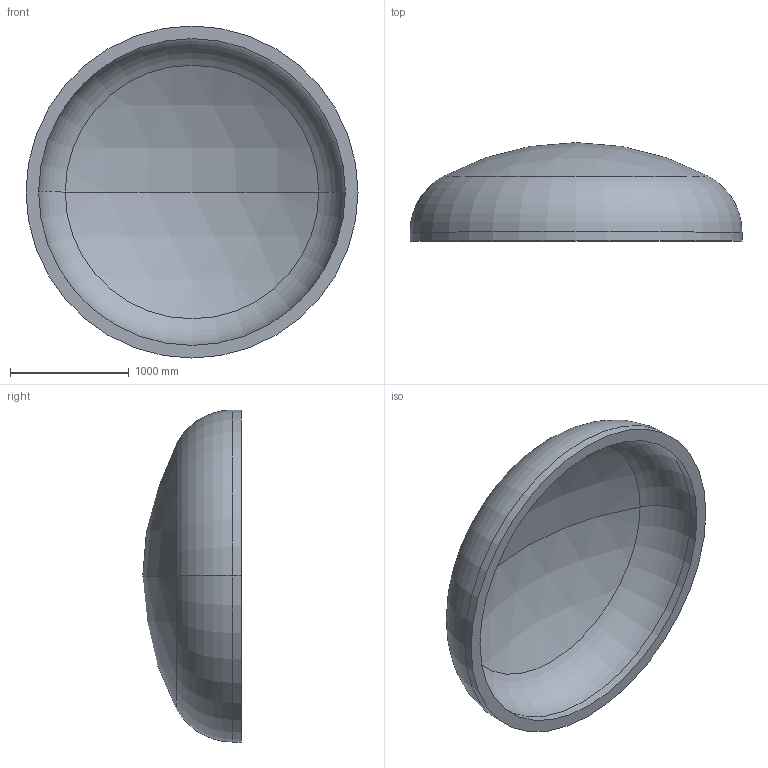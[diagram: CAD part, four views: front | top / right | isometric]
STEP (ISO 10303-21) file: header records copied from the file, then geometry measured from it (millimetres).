
FILE_DESCRIPTION (( 'STEP AP203' ), '1' );
FILE_NAME ('DIN 28013 Korbbogenform_-_Boden DIN 28013 - 2800 x 75 - I - s=106.step', '2016-07-01T17:19:40', ( '' ), ( '' ), 'SwSTEP 2.0', 'SolidWorks 2013', '' );
FILE_SCHEMA (( 'CONFIG_CONTROL_DESIGN' ));
Length unit declared in the file: millimetre
Products named in the file (1): DIN 28013 Korbbogenform_-_Boden DIN 28013 - 2800 x 75 - I - s=106
Bounding box: 2800 x 830.53 x 2800 mm (x, y, z)
Volume: 927429888.6 mm3; surface area: 18419330 mm2
Topology: 1 solids, 1 shells, 13 faces, 24 edges, 14 vertices
Faces by surface type: torus 4, cylinder 4, sphere 4, plane 1
Entity records: 407 total; most frequent: DIRECTION 72, CARTESIAN_POINT 52, ORIENTED_EDGE 48, AXIS2_PLACEMENT_3D 34, EDGE_CURVE 24, CIRCLE 20, VERTEX_POINT 14, EDGE_LOOP 14
